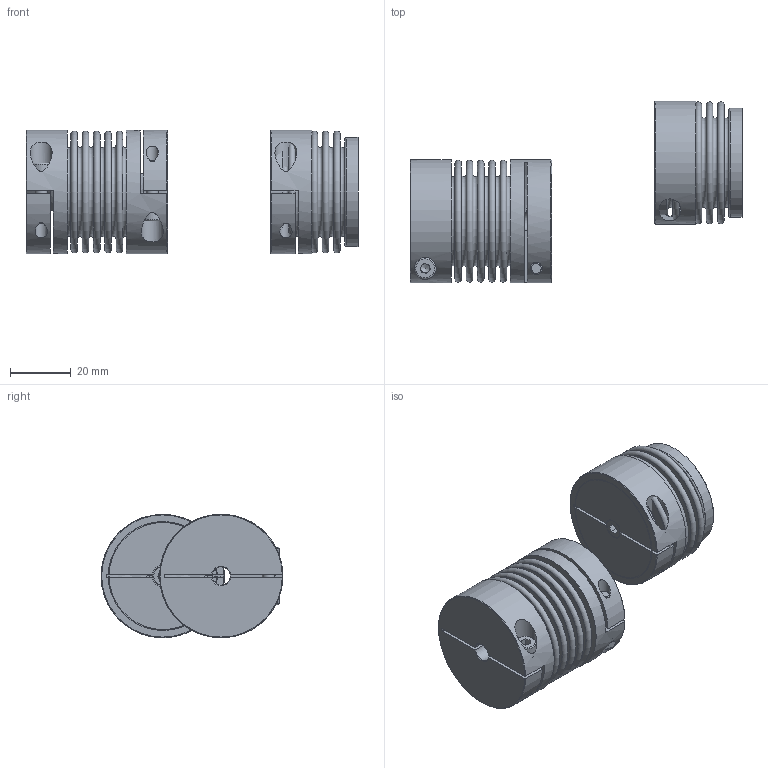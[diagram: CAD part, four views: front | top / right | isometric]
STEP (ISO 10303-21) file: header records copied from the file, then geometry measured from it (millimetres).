
FILE_DESCRIPTION( ( 'Unknown' ), '1' );
FILE_NAME( 'C:/Dokumente und Einstellungen/Sven/Desktop/cad - homepage/KB2/KB2-100-48.stp', 'Unknown', ( 'Unknown' ), ( 'Unknown' ), 'XStep 1.0', 'Unknown', ' ' );
FILE_SCHEMA( ( 'automotive_design' ) );
Length unit declared in the file: millimetre
Products named in the file (4): Assem1; Socket Head Cap Screw_DIN_DIN 912 M4 x 16 --- 16N; KN10_Standard_2; BK100_Standard
Bounding box: 108.97 x 59.67 x 40.5 mm (x, y, z)
Volume: 53221 mm3; surface area: 54771.5 mm2
Topology: 8 solids, 8 shells, 235 faces, 482 edges, 314 vertices
Faces by surface type: plane 124, torus 58, cylinder 38, cone 15
Full cylindrical faces by diameter (mm): 4 x6, 4.2 x3, 6 x3, 7 x3, 7.2 x3, 35.2 x4, 35.8 x4, 40.5 x3
Entity records: 2618 total; most frequent: CARTESIAN_POINT 513, DIRECTION 425, ORIENTED_EDGE 280, AXIS2_PLACEMENT_3D 192, EDGE_LOOP 171, EDGE_CURVE 140, FACE_OUTER_BOUND 136, VERTEX_POINT 116
